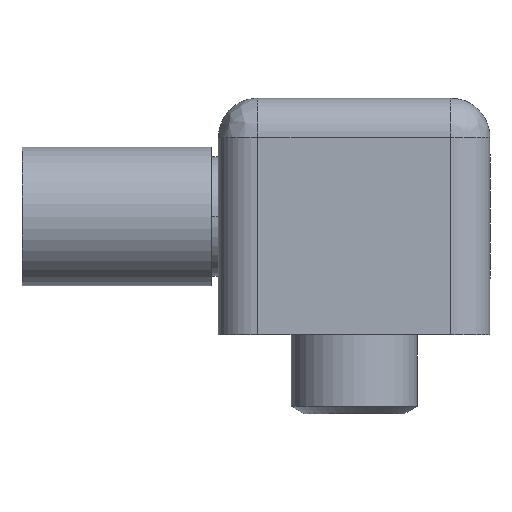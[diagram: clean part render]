
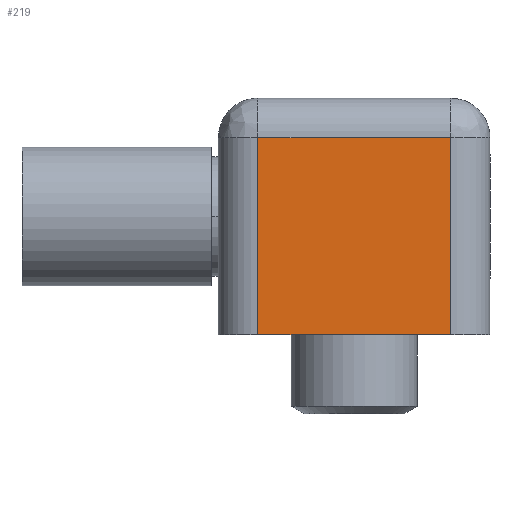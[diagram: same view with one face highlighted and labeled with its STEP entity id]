
A CAD part, front view. The second image highlights one B-rep face of the part: STEP entity #219.
In plain terms, the highlighted planar face has unit normal (0, -1, 0).
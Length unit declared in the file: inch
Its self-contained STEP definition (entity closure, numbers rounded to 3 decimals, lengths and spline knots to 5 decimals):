
#6 = FACE_OUTER_BOUND ( 'NONE', #46, .T. ) ;
#46 = EDGE_LOOP ( 'NONE', ( #109, #92, #93, #94 ) ) ;
#92 = ORIENTED_EDGE ( 'NONE', *, *, #390, .F. ) ;
#93 = ORIENTED_EDGE ( 'NONE', *, *, #427, .F. ) ;
#94 = ORIENTED_EDGE ( 'NONE', *, *, #379, .F. ) ;
#109 = ORIENTED_EDGE ( 'NONE', *, *, #399, .T. ) ;
#128 = CARTESIAN_POINT ( 'NONE',  ( -3.42594, -1.06841, 0.89543 ) ) ;
#133 = CARTESIAN_POINT ( 'NONE',  ( -3.42594, -1.06841, 1.52043 ) ) ;
#154 = CARTESIAN_POINT ( 'NONE',  ( -2.81594, -1.06841, 0.89543 ) ) ;
#219 = ADVANCED_FACE ( 'NONE', ( #6 ), #835, .F. ) ;
#245 = LINE ( 'NONE', #871, #247 ) ;
#247 = VECTOR ( 'NONE', #872, 39.37008 ) ;
#255 = LINE ( 'NONE', #542, #259 ) ;
#259 = VECTOR ( 'NONE', #538, 39.37008 ) ;
#281 = LINE ( 'NONE', #1136, #284 ) ;
#284 = VECTOR ( 'NONE', #1137, 39.37008 ) ;
#379 = EDGE_CURVE ( 'NONE', #547, #747, #1095, .T. ) ;
#390 = EDGE_CURVE ( 'NONE', #566, #571, #245, .T. ) ;
#399 = EDGE_CURVE ( 'NONE', #547, #571, #255, .T. ) ;
#427 = EDGE_CURVE ( 'NONE', #747, #566, #281, .T. ) ;
#506 = AXIS2_PLACEMENT_3D ( 'NONE', #833, #837, #838 ) ;
#538 = DIRECTION ( 'NONE',  ( -1., 0., 0. ) ) ;
#542 = CARTESIAN_POINT ( 'NONE',  ( -3.55094, -1.06841, 1.52043 ) ) ;
#547 = VERTEX_POINT ( 'NONE', #1170 ) ;
#566 = VERTEX_POINT ( 'NONE', #128 ) ;
#571 = VERTEX_POINT ( 'NONE', #133 ) ;
#747 = VERTEX_POINT ( 'NONE', #154 ) ;
#808 = DIRECTION ( 'NONE',  ( 0., 0., -1. ) ) ;
#811 = CARTESIAN_POINT ( 'NONE',  ( -2.81594, -1.06841, 1.20793 ) ) ;
#833 = CARTESIAN_POINT ( 'NONE',  ( -3.55094, -1.06841, 1.64543 ) ) ;
#835 = PLANE ( 'NONE',  #506 ) ;
#837 = DIRECTION ( 'NONE',  ( 0., 1., 0. ) ) ;
#838 = DIRECTION ( 'NONE',  ( 0., 0., 1. ) ) ;
#871 = CARTESIAN_POINT ( 'NONE',  ( -3.42594, -1.06841, 1.20793 ) ) ;
#872 = DIRECTION ( 'NONE',  ( 0., 0., 1. ) ) ;
#1095 = LINE ( 'NONE', #811, #1097 ) ;
#1097 = VECTOR ( 'NONE', #808, 39.37008 ) ;
#1136 = CARTESIAN_POINT ( 'NONE',  ( -2.69094, -1.06841, 0.89543 ) ) ;
#1137 = DIRECTION ( 'NONE',  ( -1., 0., 0. ) ) ;
#1170 = CARTESIAN_POINT ( 'NONE',  ( -2.81594, -1.06841, 1.52043 ) ) ;
